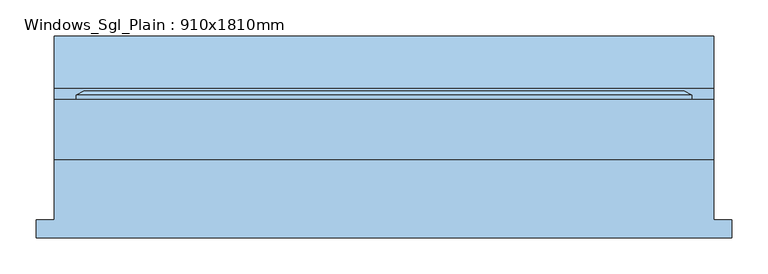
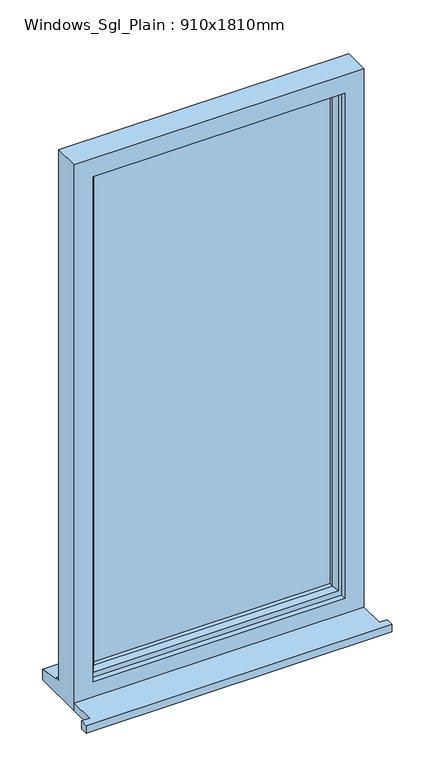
"""IFC4 building model written with IfcOpenShell, lengths in millimetres: window geometry, Windows_Sgl_Plain : 910x1810mm."""

from ifc_helpers import new_model, si_unit, frame, origin, place, context, project, spatial, polyline, outline, extrude, faceted_brep, source, transform, mapped, element, save


def windows_sgl_plain_910x1810mm_bd75558e(model_context):
    return source(origin(), model_context, "Body", "SolidModel", [
        extrude(outline(polyline([(-480.0, -124.5434322), (-480.0, -99.5434322), (-455.0, -99.5434322), (-455.0, -16.5434322), (455.0, -16.5434322), (455.0, -99.5434322), (480.0, -99.5434322), (480.0, -124.5434322), (-480.0, -124.5434322)])), frame((0.0, 0.0, 300.0), z_axis=(0.0, 0.0, 1.0), x_axis=(1.0, 0.0, 0.0)), (0.0, 0.0, 1.0), 25.0),
        faceted_brep([(-455.0, -16.5434322, 300.0), (455.0, -16.5434322, 300.0), (455.0, -16.5434322, 2110.0), (-455.0, -16.5434322, 2110.0), (-395.0, -16.5434322, 2050.0), (395.0, -16.5434322, 2050.0), (395.0, -16.5434322, 375.0), (-395.0, -16.5434322, 375.0), (-455.0, 66.4565678, 2110.0), (-455.0, 66.4565678, 351.0), (-455.0, 81.4565678, 349.68767), (-455.0, 81.4565678, 344.7449676), (-455.0, 153.9565678, 333.8088847), (-455.0, 153.9565678, 300.0), (455.0, 66.4565678, 2110.0), (455.0, 66.4565678, 351.0), (-415.0, 66.4565678, 2070.0), (-415.0, 66.4565678, 363.0), (415.0, 66.4565678, 363.0), (415.0, 66.4565678, 2070.0), (-415.0, 1.4565678, 2070.0), (-415.0, 1.4565678, 363.0), (415.0, 1.4565678, 2070.0), (415.0, 1.4565678, 363.0), (-395.0, 1.4565678, 2050.0), (-395.0, 1.4565678, 375.0), (395.0, 1.4565678, 375.0), (395.0, 1.4565678, 2050.0), (455.0, 153.9565678, 300.0), (455.0, 153.9565678, 333.8088847), (455.0, 81.4565678, 344.7449676), (455.0, 81.4565678, 349.68767)], [[[0, 1, 2, 3], [4, 5, 6, 7]], [[0, 3, 8, 9, 10, 11, 12, 13]], [[9, 8, 14, 15], [16, 17, 18, 19]], [[17, 16, 20, 21]], [[20, 22, 23, 21], [24, 25, 26, 27]], [[24, 4, 7, 25]], [[3, 2, 14, 8]], [[16, 19, 22, 20]], [[5, 4, 24, 27]], [[15, 14, 2, 1, 28, 29, 30, 31]], [[19, 18, 23, 22]], [[5, 27, 26, 6]], [[28, 1, 0, 13]], [[29, 28, 13, 12]], [[30, 29, 12, 11]], [[31, 30, 11, 10]], [[15, 31, 10, 9]], [[21, 23, 18, 17]], [[7, 6, 26, 25]]]),
        extrude(outline(polyline([(385.0, 30.4565678), (-385.0, 30.4565678), (-385.0, 54.4565678), (385.0, 54.4565678), (385.0, 30.4565678)])), frame((0.0, 0.0, 393.0), z_axis=(0.0, 0.0, 1.0), x_axis=(1.0, 0.0, 0.0)), (0.0, 0.0, 1.0), 1647.0),
        faceted_brep([(-425.0, 66.4565678, 2080.0), (-425.0, 72.2300705, 2080.0), (-425.0, 72.2300705, 353.0), (-425.0, 66.4565678, 353.0), (-415.0, 1.4565678, 2070.0), (-415.0, 66.4565678, 2070.0), (-415.0, 66.4565678, 363.0), (-415.0, 1.4565678, 363.0), (-375.0, 15.9494677, 2030.0), (-385.1480377, 1.4565678, 2040.1480377), (-385.1480377, 1.4565678, 392.8519623), (-375.0, 15.9494677, 403.0), (-375.0, 30.4565678, 2030.0), (-375.0, 30.4565678, 403.0), (-385.0, 54.4565678, 2040.0), (-385.0, 30.4565678, 2040.0), (-385.0, 30.4565678, 393.0), (-385.0, 54.4565678, 393.0), (-375.0, 72.2300705, 2030.0), (-375.0, 54.4565678, 2030.0), (-375.0, 54.4565678, 403.0), (-375.0, 72.2300705, 403.0), (-392.4457548, 78.0035732, 2047.4457548), (-392.4457548, 78.0035732, 385.5542452), (-414.2153903, 78.0035732, 2069.2153903), (-414.2153903, 78.0035732, 363.7846097), (425.0, 72.2300705, 353.0), (425.0, 66.4565678, 353.0), (415.0, 66.4565678, 363.0), (415.0, 1.4565678, 363.0), (385.1480377, 1.4565678, 392.8519623), (375.0, 15.9494677, 403.0), (375.0, 30.4565678, 403.0), (385.0, 30.4565678, 393.0), (385.0, 54.4565678, 393.0), (375.0, 54.4565678, 403.0), (375.0, 72.2300705, 403.0), (392.4457548, 78.0035732, 385.5542452), (414.2153903, 78.0035732, 363.7846097), (425.0, 72.2300705, 2080.0), (425.0, 66.4565678, 2080.0), (415.0, 66.4565678, 2070.0), (415.0, 1.4565678, 2070.0), (385.1480377, 1.4565678, 2040.1480377), (375.0, 15.9494677, 2030.0), (375.0, 30.4565678, 2030.0), (385.0, 30.4565678, 2040.0), (385.0, 54.4565678, 2040.0), (375.0, 54.4565678, 2030.0), (375.0, 72.2300705, 2030.0), (392.4457548, 78.0035732, 2047.4457548), (414.2153903, 78.0035732, 2069.2153903)], [[[0, 1, 2, 3]], [[4, 5, 6, 7]], [[8, 9, 10, 11]], [[12, 8, 11, 13]], [[14, 15, 16, 17]], [[18, 19, 20, 21]], [[22, 18, 21, 23]], [[1, 24, 25, 2]], [[3, 2, 26, 27]], [[7, 6, 28, 29]], [[11, 10, 30, 31]], [[13, 11, 31, 32]], [[17, 16, 33, 34]], [[21, 20, 35, 36]], [[23, 21, 36, 37]], [[2, 25, 38, 26]], [[27, 26, 39, 40]], [[29, 28, 41, 42]], [[31, 30, 43, 44]], [[32, 31, 44, 45]], [[34, 33, 46, 47]], [[36, 35, 48, 49]], [[37, 36, 49, 50]], [[26, 38, 51, 39]], [[40, 39, 1, 0]], [[3, 27, 40, 0], [5, 41, 28, 6]], [[42, 41, 5, 4]], [[7, 29, 42, 4], [9, 43, 30, 10]], [[44, 43, 9, 8]], [[45, 44, 8, 12]], [[15, 46, 33, 16], [13, 32, 45, 12]], [[47, 46, 15, 14]], [[17, 34, 47, 14], [19, 48, 35, 20]], [[49, 48, 19, 18]], [[50, 49, 18, 22]], [[24, 51, 38, 25], [23, 37, 50, 22]], [[39, 51, 24, 1]]]),
    ])


if __name__ == "__main__":
    model = new_model("IFC4")
    model_context = context("Model", 3, world=origin())
    ifc_project = project(units=[si_unit("LENGTHUNIT", "METRE", prefix="MILLI")], contexts=[model_context])
    site = spatial("IfcSite", under=ifc_project)
    building = spatial("IfcBuilding", under=site)
    placement = place(None, origin())
    windows_sgl_plain_910x1810mm_shape = windows_sgl_plain_910x1810mm_bd75558e(model_context)
    element("IfcWindow", 1, ObjectType="Windows_Sgl_Plain : 910x1810mm", at=placement, inside=building, context=model_context, shape_type="MappedRepresentation", body=[
        mapped(windows_sgl_plain_910x1810mm_shape, transform((0.0, 0.0, 0.0), x_axis=(1.0, 0.0, 0.0), y_axis=(0.0, 1.0, 0.0), z_axis=(0.0, 0.0, 1.0))),
    ])
    save(model, "model.ifc")
